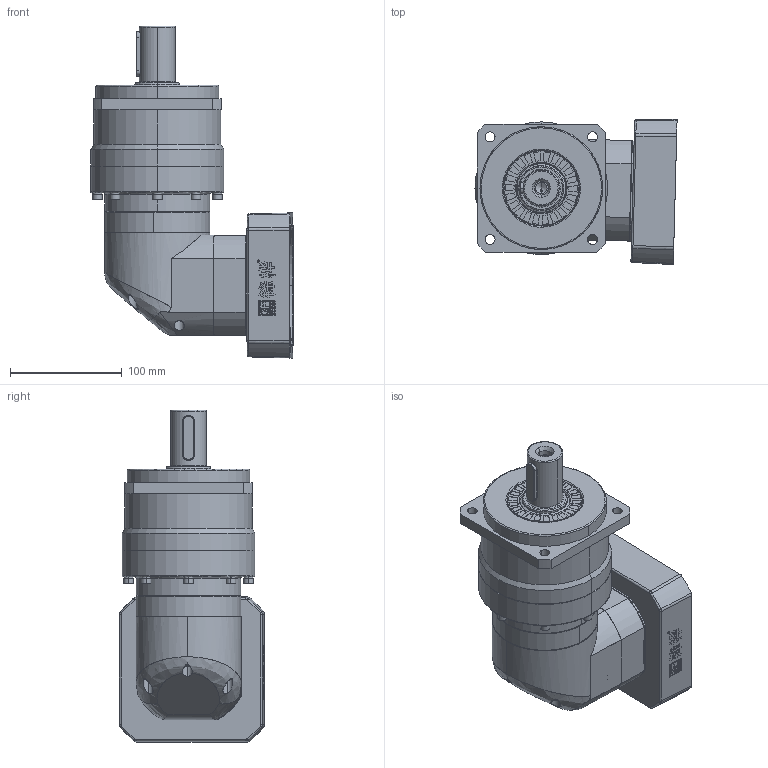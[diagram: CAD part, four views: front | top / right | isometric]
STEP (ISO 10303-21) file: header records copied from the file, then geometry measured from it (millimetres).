
FILE_DESCRIPTION (( 'STEP AP214' ), '1' );
FILE_NAME ('EVB115-L2-S2-P2 24-110-145-M8.STEP', '2021-04-24T04:53:22', ( 'User' ), ( 'china' ), 'SwSTEP 2.0', 'SolidWorks 2016', '' );
FILE_SCHEMA (( 'AUTOMOTIVE_DESIGN' ));
Length unit declared in the file: millimetre
Products named in the file (13): 输入端壳体EVB090M1; 输入法兰EVB090M1-110-145-M8; 输入轴锁紧环 26-52-14; 输入轴EVB090-5M1-22; 珨撰眻褒眊极EVB090D+菜え.; 怀堤傷褲极EVB090D; M5-12樓粟菜; 一级内齿圈壳体EVB090D; 蚐猾40x68x8; す瑩10X40; 怀堤俴陎殤EVB115D; 输出内齿圈壳体EVB115D_1; EVB115-L2-S2-P2 24-110-145-M8
Assembly tree (20 placements, depth 2):
  EVB115-L2-S2-P2 24-110-145-M8
    输出内齿圈壳体EVB115D_1
    怀堤俴陎殤EVB115D
    す瑩10X40
    蚐猾40x68x8
    一级内齿圈壳体EVB090D
    M5-12樓粟菜  x9
    怀堤傷褲极EVB090D
    珨撰眻褒眊极EVB090D+菜え.
    输入轴EVB090-5M1-22
    输入轴锁紧环 26-52-14
    输入法兰EVB090M1-110-145-M8
    输入端壳体EVB090M1
Bounding box: 181.16 x 129.96 x 297.5 mm (x, y, z)
Volume: 1815392.6 mm3; surface area: 372562.3 mm2
Topology: 11 solids, 29 shells, 1770 faces, 4467 edges, 2813 vertices
Faces by surface type: plane 605, bspline 525, cylinder 389, cone 212, torus 39
Entity records: 90934 total; most frequent: CARTESIAN_POINT 39921, ORIENTED_EDGE 7747, DIRECTION 5659, EDGE_CURVE 3877, VERTEX_POINT 2461, AXIS2_PLACEMENT_3D 2003, EDGE_LOOP 1741, VECTOR 1653
